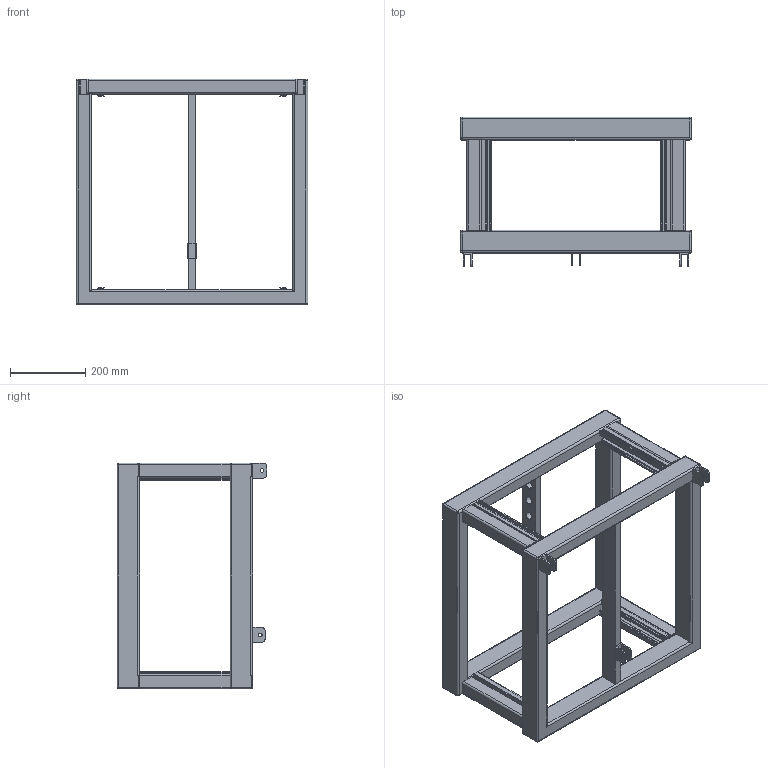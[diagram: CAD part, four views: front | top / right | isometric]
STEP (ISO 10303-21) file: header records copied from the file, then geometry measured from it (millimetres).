
FILE_DESCRIPTION (( 'STEP AP203' ), '1' );
FILE_NAME ('Seeburg_Galeo-Combicradle.STEP', '2012-10-17T08:45:10', ( 'Fabian' ), ( '' ), 'SwSTEP 2.0', 'SolidWorks 2009', '' );
FILE_SCHEMA (( 'CONFIG_CONTROL_DESIGN' ));
Length unit declared in the file: millimetre
Products named in the file (2): Combicradle_GALEO; Seeburg_Galeo-Combicradle
Assembly tree (1 placements, depth 2):
  Seeburg_Galeo-Combicradle
    Combicradle_GALEO
Bounding box: 615 x 398 x 600.01 mm (x, y, z)
Volume: 10131807.8 mm3; surface area: 1792676 mm2
Topology: 5 solids, 9 shells, 468 faces, 1251 edges, 787 vertices
Faces by surface type: plane 310, cylinder 100, cone 40, sphere 18
Entity records: 14542 total; most frequent: CARTESIAN_POINT 2657, ORIENTED_EDGE 2478, DIRECTION 2376, EDGE_CURVE 1239, LINE 936, VECTOR 936, VERTEX_POINT 781, AXIS2_PLACEMENT_3D 720
